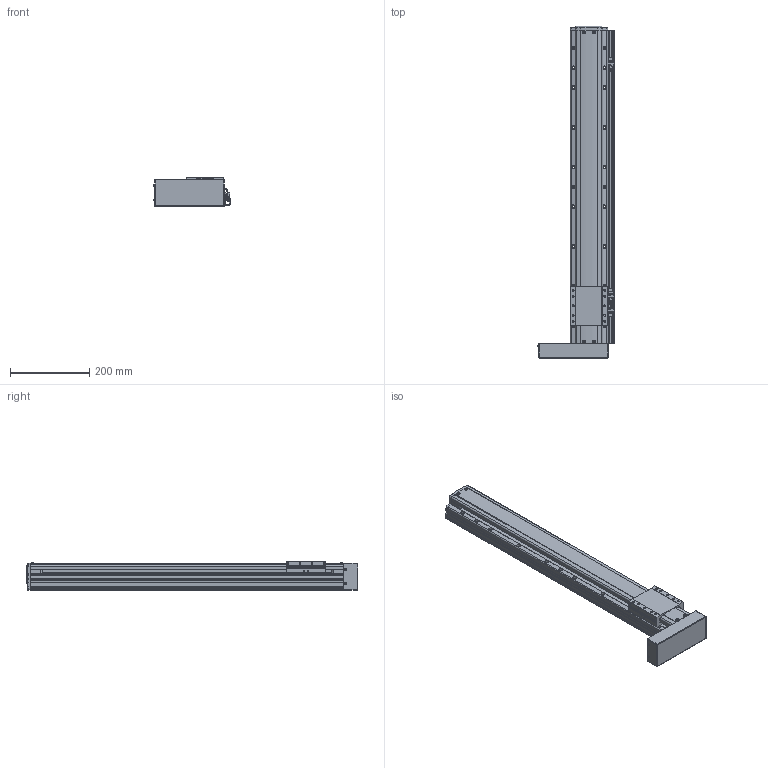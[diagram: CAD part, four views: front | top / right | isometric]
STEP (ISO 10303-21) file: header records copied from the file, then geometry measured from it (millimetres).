
FILE_DESCRIPTION(('STEP AP214'),'1');
FILE_NAME('Z:/Web/3D/PSA95/STP/PSA95-600 (3D)/PSA95ㅁㅁ-600PL+3SR.stp','2014-07-03T00:41:21',(' '),(' '),'Spatial InterOp 3D',' ',' ');
FILE_SCHEMA(('automotive_design'));
Length unit declared in the file: millimetre
Products named in the file (41): BASE; RRCV; 스크루 : Round - M4.0 x 10.0; 너트 : Square - M10.0 x 220.7419; RR1500; FRCV-090; 스크루 : Round - M4.0 x 6.0; SLBL-PA90; MOTOR PLATE COVER; 스크루 : Round - M3.0 x 6.0; EE-SX674; SBK-SX674-352; M3.0 x 6.0; SRL-16x17-380L; SGD-PA95; 스크루 : Round - M3.0 x 8.0
Bounding box: 192.06 x 836.5 x 74 mm (x, y, z)
Volume: 4820590.2 mm3; surface area: 578146.7 mm2
Topology: 41 solids, 41 shells, 2420 faces, 6454 edges, 4142 vertices
Faces by surface type: plane 1408, cylinder 691, cone 221, sphere 62, bspline 24, torus 14
Entity records: 97116 total; most frequent: CARTESIAN_POINT 16116, DIRECTION 12840, ORIENTED_EDGE 12636, EDGE_CURVE 6318, LINE 4320, VECTOR 4320, AXIS2_PLACEMENT_3D 4260, VERTEX_POINT 4142
